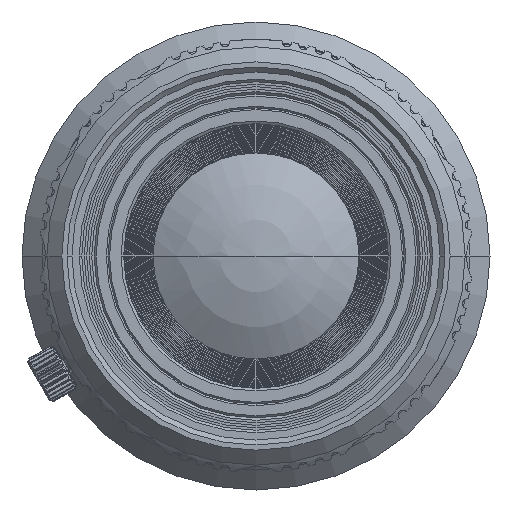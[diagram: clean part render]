
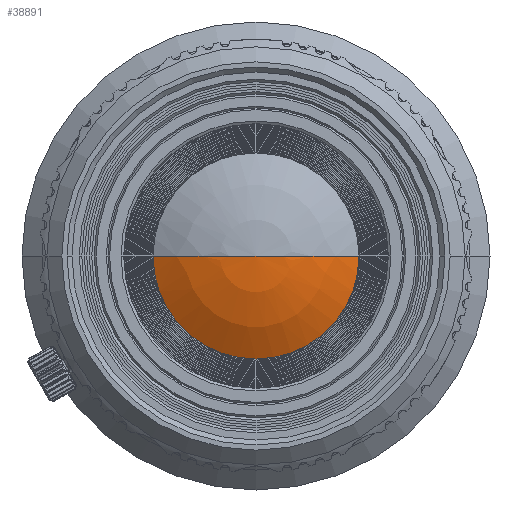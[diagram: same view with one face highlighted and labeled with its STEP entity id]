
A CAD part, left-side view. The second image highlights one B-rep face of the part: STEP entity #38891.
In plain terms, the highlighted spherical face has radius 19.777 mm.
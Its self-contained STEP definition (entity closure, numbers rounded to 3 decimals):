
#12221=CARTESIAN_POINT('',(-11.865,0.,0.));
#12222=DIRECTION('',(1.,0.,0.));
#12223=DIRECTION('',(0.,-1.,0.));
#12224=AXIS2_PLACEMENT_3D('',#12221,#12222,#12223);
#12226=CARTESIAN_POINT('',(4.948,0.,0.));
#12227=DIRECTION('',(0.,0.,1.));
#12228=DIRECTION('',(-1.,0.,0.));
#12229=AXIS2_PLACEMENT_3D('',#12226,#12227,#12228);
#12236=CARTESIAN_POINT('',(4.948,0.,0.));
#12237=DIRECTION('',(0.,0.,-1.));
#12238=DIRECTION('',(-1.,0.,0.));
#12239=AXIS2_PLACEMENT_3D('',#12236,#12237,#12238);
#27491=CARTESIAN_POINT('',(-11.865,10.412,0.));
#27492=CARTESIAN_POINT('',(-11.865,-10.412,0.));
#27493=VERTEX_POINT('',#27491);
#27494=VERTEX_POINT('',#27492);
#27495=CARTESIAN_POINT('',(-14.828,0.,0.));
#27496=VERTEX_POINT('',#27495);
#38879=CARTESIAN_POINT('',(4.948,0.,0.));
#38880=DIRECTION('',(1.,0.,0.));
#38881=DIRECTION('',(0.,-1.,0.));
#38882=AXIS2_PLACEMENT_3D('',#38879,#38880,#38881);
#38883=SPHERICAL_SURFACE('',#38882,19.777);
#38884=ORIENTED_EDGE('',*,*,#38869,.T.);
#38886=ORIENTED_EDGE('',*,*,#38885,.F.);
#38888=ORIENTED_EDGE('',*,*,#38887,.T.);
#38889=EDGE_LOOP('',(#38884,#38886,#38888));
#38890=FACE_OUTER_BOUND('',#38889,.F.);
#12225=CIRCLE('',#12224,10.412);
#12230=CIRCLE('',#12229,19.777);
#12240=CIRCLE('',#12239,19.777);
#38869=EDGE_CURVE('',#27494,#27493,#12225,.T.);
#38885=EDGE_CURVE('',#27496,#27493,#12240,.T.);
#38887=EDGE_CURVE('',#27496,#27494,#12230,.T.);
#38891=ADVANCED_FACE('',(#38890),#38883,.T.);
